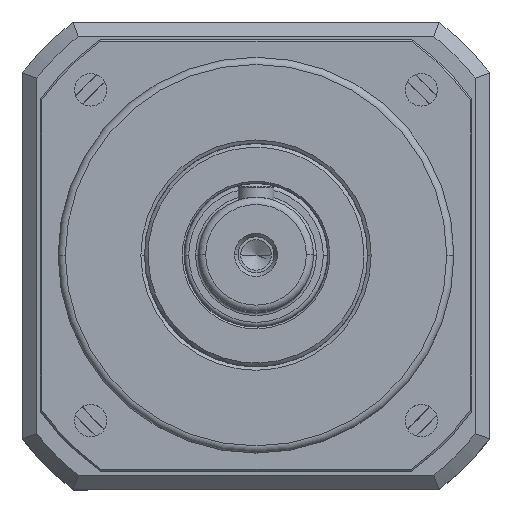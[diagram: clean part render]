
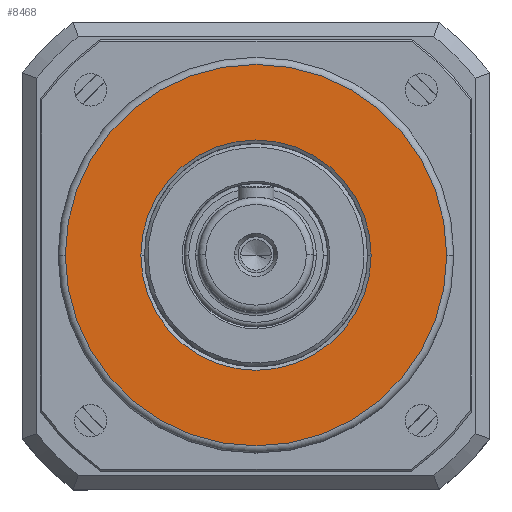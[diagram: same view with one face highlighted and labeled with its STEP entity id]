
A CAD part, top view. The second image highlights one B-rep face of the part: STEP entity #8468.
In plain terms, the highlighted planar face has unit normal (0, 0, 1).
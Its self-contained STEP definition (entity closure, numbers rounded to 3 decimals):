
#229 = CARTESIAN_POINT ( 'NONE',  ( -32., -46.947, 15.471 ) ) ;
#2895 = CARTESIAN_POINT ( 'NONE',  ( 0., -46.947, 15.471 ) ) ;
#3302 = EDGE_CURVE ( 'NONE', #5036, #21183, #18020, .T. ) ;
#3332 = FACE_BOUND ( 'NONE', #6423, .T. ) ;
#3587 = ORIENTED_EDGE ( 'NONE', *, *, #13149, .T. ) ;
#3673 = CARTESIAN_POINT ( 'NONE',  ( 32., -46.947, 15.471 ) ) ;
#4655 = CARTESIAN_POINT ( 'NONE',  ( -53., -46.947, 15.471 ) ) ;
#4755 = DIRECTION ( 'NONE',  ( 1., 0., 0. ) ) ;
#4990 = FACE_OUTER_BOUND ( 'NONE', #5715, .T. ) ;
#5036 = VERTEX_POINT ( 'NONE', #229 ) ;
#5611 = VERTEX_POINT ( 'NONE', #6339 ) ;
#5715 = EDGE_LOOP ( 'NONE', ( #20513, #16010 ) ) ;
#5782 = AXIS2_PLACEMENT_3D ( 'NONE', #16795, #9701, #18340 ) ;
#6339 = CARTESIAN_POINT ( 'NONE',  ( 53., -46.947, 15.471 ) ) ;
#6423 = EDGE_LOOP ( 'NONE', ( #3587, #18140 ) ) ;
#8468 = ADVANCED_FACE ( 'NONE', ( #3332, #4990 ), #16865, .T. ) ;
#8697 = DIRECTION ( 'NONE',  ( 1., 0., 0. ) ) ;
#9701 = DIRECTION ( 'NONE',  ( 0., 0., -1. ) ) ;
#10047 = CIRCLE ( 'NONE', #12864, 53. ) ;
#11908 = CARTESIAN_POINT ( 'NONE',  ( 0., -46.947, 15.471 ) ) ;
#12599 = VERTEX_POINT ( 'NONE', #4655 ) ;
#12864 = AXIS2_PLACEMENT_3D ( 'NONE', #15249, #13254, #4755 ) ;
#13149 = EDGE_CURVE ( 'NONE', #21183, #5036, #16386, .T. ) ;
#13254 = DIRECTION ( 'NONE',  ( 0., 0., 1. ) ) ;
#13786 = DIRECTION ( 'NONE',  ( 0., 0., -1. ) ) ;
#14321 = DIRECTION ( 'NONE',  ( 1., 0., 0. ) ) ;
#15072 = DIRECTION ( 'NONE',  ( 0., 0., 1. ) ) ;
#15249 = CARTESIAN_POINT ( 'NONE',  ( 0., -46.947, 15.471 ) ) ;
#15343 = EDGE_CURVE ( 'NONE', #5611, #12599, #16024, .T. ) ;
#16010 = ORIENTED_EDGE ( 'NONE', *, *, #18068, .T. ) ;
#16024 = CIRCLE ( 'NONE', #19605, 53. ) ;
#16386 = CIRCLE ( 'NONE', #5782, 32. ) ;
#16583 = AXIS2_PLACEMENT_3D ( 'NONE', #11908, #13786, #8697 ) ;
#16795 = CARTESIAN_POINT ( 'NONE',  ( 0., -46.947, 15.471 ) ) ;
#16865 = PLANE ( 'NONE',  #19010 ) ;
#18020 = CIRCLE ( 'NONE', #16583, 32. ) ;
#18068 = EDGE_CURVE ( 'NONE', #12599, #5611, #10047, .T. ) ;
#18140 = ORIENTED_EDGE ( 'NONE', *, *, #3302, .T. ) ;
#18298 = CARTESIAN_POINT ( 'NONE',  ( 0., -46.947, 15.471 ) ) ;
#18340 = DIRECTION ( 'NONE',  ( 1., 0., 0. ) ) ;
#19010 = AXIS2_PLACEMENT_3D ( 'NONE', #18298, #15072, #20093 ) ;
#19605 = AXIS2_PLACEMENT_3D ( 'NONE', #2895, #19673, #14321 ) ;
#19673 = DIRECTION ( 'NONE',  ( 0., 0., 1. ) ) ;
#20093 = DIRECTION ( 'NONE',  ( 1., 0., 0. ) ) ;
#20513 = ORIENTED_EDGE ( 'NONE', *, *, #15343, .T. ) ;
#21183 = VERTEX_POINT ( 'NONE', #3673 ) ;
